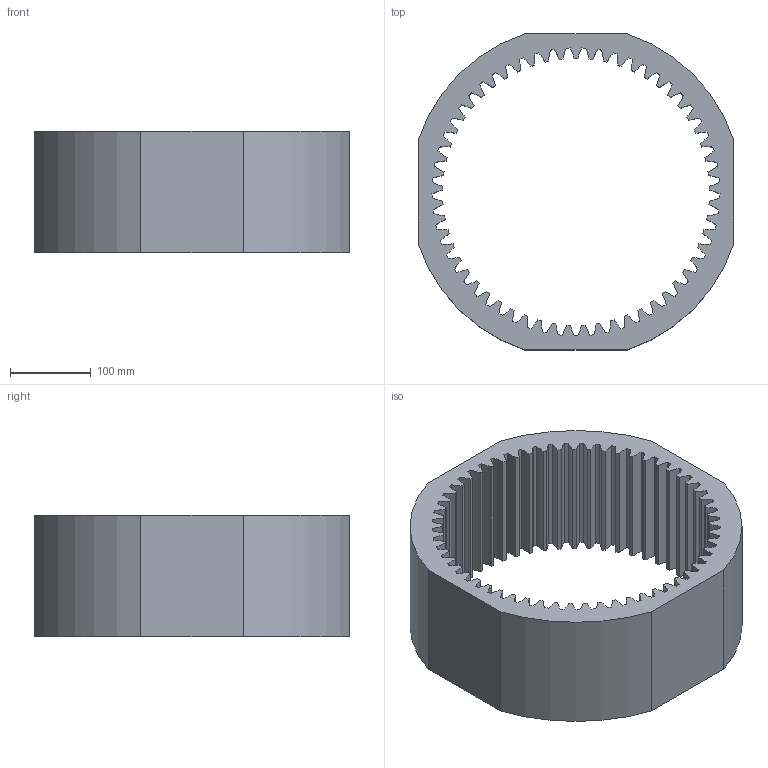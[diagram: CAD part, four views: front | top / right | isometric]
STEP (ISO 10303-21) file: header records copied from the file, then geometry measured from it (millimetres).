
FILE_DESCRIPTION(/* description */ (''),/* implementation_level */ '2;1');
FILE_NAME(/* name */ 'C:\Users\jbart\OneDrive\Plocha\Nová složka\3D modely - stp\Korunové kolo 1.stp',/* time_stamp */ '2025-05-15T16:49:35+02:00',/* author */ ('jbart'),/* organization */ (''),/* preprocessor_version */ 'ST-DEVELOPER v18.1',/* originating_system */ 'Autodesk Inventor 2022',/* authorisation */ '');
FILE_SCHEMA (('AUTOMOTIVE_DESIGN { 1 0 10303 214 3 1 1 }'));
Length unit declared in the file: millimetre
Products named in the file (3): Korunové kolo A; Čelní ozubená kola; Čelní ozubené kolo2
Assembly tree (2 placements, depth 3):
  Korunové kolo A
    Čelní ozubená kola
      Čelní ozubené kolo2
Bounding box: 390 x 390 x 150 mm (x, y, z)
Volume: 5402175.5 mm3; surface area: 581600.4 mm2
Topology: 1 solids, 1 shells, 238 faces, 708 edges, 472 vertices
Faces by surface type: cylinder 232, plane 6
Entity records: 8389 total; most frequent: DIRECTION 1660, CARTESIAN_POINT 1424, ORIENTED_EDGE 1416, EDGE_CURVE 708, AXIS2_PLACEMENT_3D 708, VERTEX_POINT 472, CIRCLE 464, LINE 244
